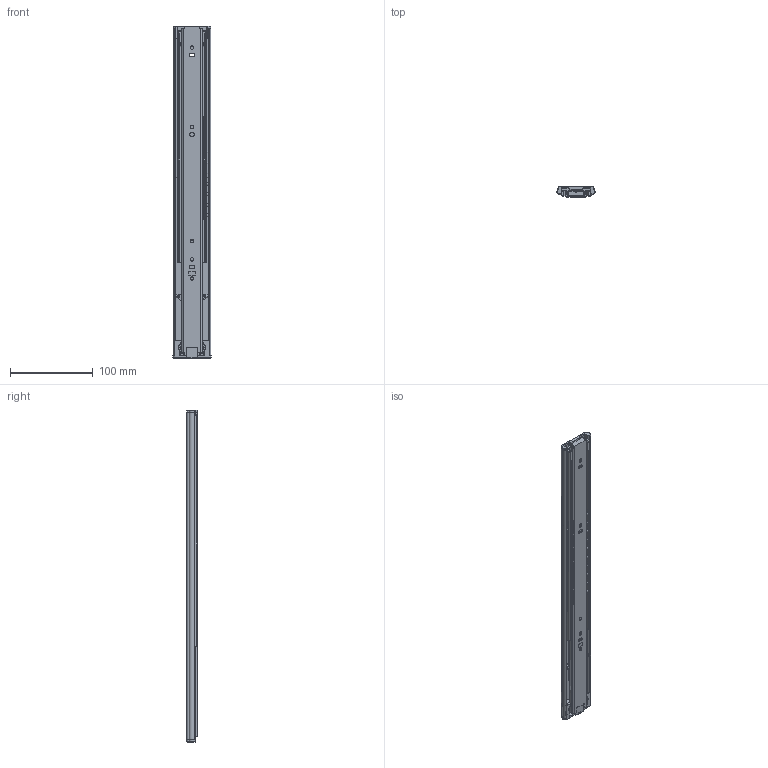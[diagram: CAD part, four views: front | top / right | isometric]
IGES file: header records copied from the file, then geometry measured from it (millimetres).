
Global section: file name: No Iges File Name specified; native system: Autodesk Inventor 2010; preprocessor: AutoDesk Inventor Iges Exporter R2010; author: jennes; date: 20110120.112340; units: millimetre
Bounding box: 45.98 x 12.5 x 401.1 mm (x, y, z)
Volume: 90954.9 mm3; surface area: 143314.6 mm2
Topology: 49 solids, 49 shells, 1704 faces, 4926 edges, 3093 vertices
Faces by surface type: plane 909, cylinder 369, revolution 235, sphere 84, torus 59, bspline 48
